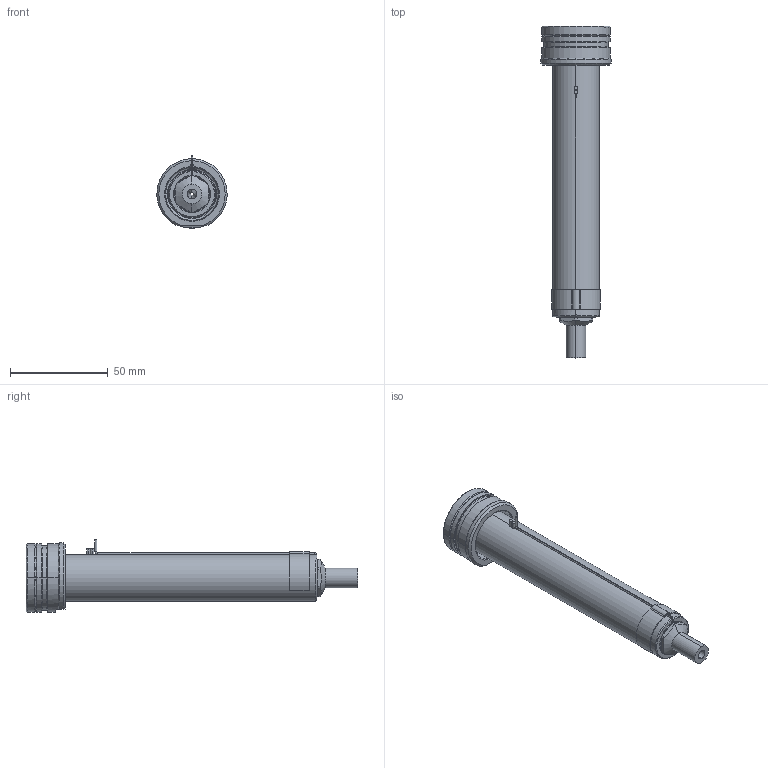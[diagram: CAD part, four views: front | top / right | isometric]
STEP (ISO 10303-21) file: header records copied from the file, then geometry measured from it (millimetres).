
FILE_DESCRIPTION((''),'2;1');
FILE_NAME('EO06_VG-ST_ESG_140_SW','2024-02-19T12:41:09',('sundharh'),(''),'CREO PARAMETRIC BY PTC INC, 2023154','CREO PARAMETRIC BY PTC INC, 2023154','');
FILE_SCHEMA(('CONFIG_CONTROL_DESIGN'));
Length unit declared in the file: millimetre
Products named in the file (1): EO06_VG-ST_ESG_140_SW
Bounding box: 35.93 x 170 x 37 mm (x, y, z)
Volume: 73666.6 mm3; surface area: 20693.2 mm2
Topology: 2 solids, 2 shells, 175 faces, 448 edges, 272 vertices
Faces by surface type: cylinder 68, plane 40, cone 34, torus 21, bspline 10, sphere 2
Entity records: 6132 total; most frequent: CARTESIAN_POINT 1839, DIRECTION 946, ORIENTED_EDGE 880, EDGE_CURVE 440, AXIS2_PLACEMENT_3D 395, VERTEX_POINT 272, CIRCLE 230, EDGE_LOOP 188
